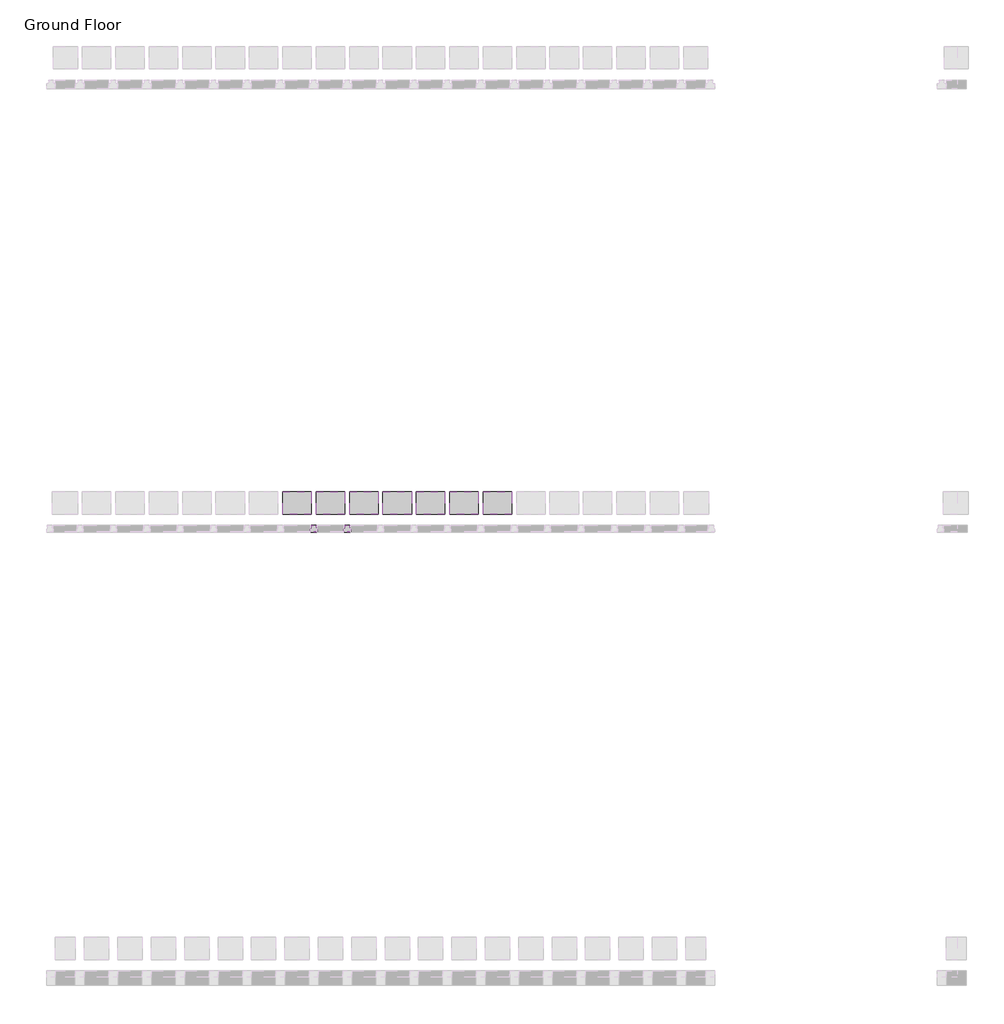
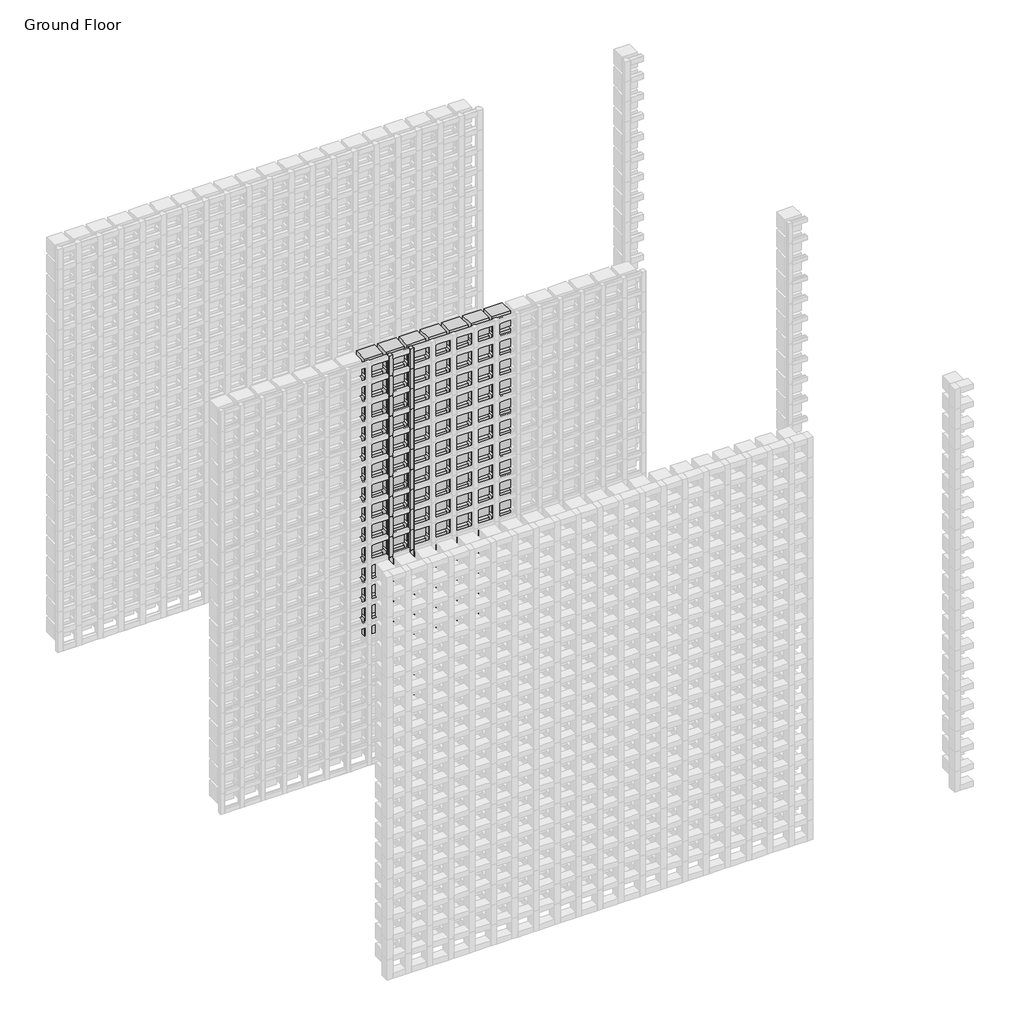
# One storey, part 89 of 350: 102 plates, 38 members.
"""IFC4 building model written with IfcOpenShell, lengths in millimetres."""

from ifc_helpers import new_model, si_unit, origin, place, context, project, spatial, transform, mapped, element, save
from components import rectangular_mullion_f1976eb1, empty_system_panel_empty_5a3607ba, empty_system_panel_empty_babc703c

model = new_model("IFC4")

# Units and contexts
model_context = context("Model", 3, world=origin())
ifc_project = project(units=[si_unit("LENGTHUNIT", "METRE", prefix="MILLI")], contexts=[model_context])

# Site, building, storey
site = spatial("IfcSite", under=ifc_project)
building = spatial("IfcBuilding", under=site)
storey = spatial("IfcBuildingStorey", under=building, Name="Ground Floor", Elevation=0.0)

# Members
placement = place(None, origin())
rectangular_mullion_shape = rectangular_mullion_f1976eb1(model_context)
element("IfcMember", 1, ObjectType="Rectangular Mullion : Batten_Timber_Modinex_Austratus_Grid_Fin_30x30_AlaskanYellowCedar", at=placement, inside=storey, context=model_context, shape_type="MappedRepresentation", body=[
    mapped(rectangular_mullion_shape, transform((3116.4361642, 42968.2978302, 150.0), x_axis=(1.0, 0.0, 0.0), y_axis=(0.0, -1.0, 0.0), z_axis=(0.0, 0.0, -1.0))),
])
element("IfcMember", 2, ObjectType="Rectangular Mullion : Batten_Timber_Modinex_Austratus_Grid_Fin_30x30_AlaskanYellowCedar", at=placement, inside=storey, context=model_context, shape_type="MappedRepresentation", body=[
    mapped(rectangular_mullion_shape, transform((3116.4361642, 42968.2978302, 300.0), x_axis=(1.0, 0.0, 0.0), y_axis=(0.0, -1.0, 0.0), z_axis=(0.0, 0.0, -1.0))),
])
element("IfcMember", 3, ObjectType="Rectangular Mullion : Batten_Timber_Modinex_Austratus_Grid_Fin_30x30_AlaskanYellowCedar", at=placement, inside=storey, context=model_context, shape_type="MappedRepresentation", body=[
    mapped(rectangular_mullion_shape, transform((3116.4361642, 42968.2978302, 450.0), x_axis=(1.0, 0.0, 0.0), y_axis=(0.0, -1.0, 0.0), z_axis=(0.0, 0.0, -1.0))),
])
element("IfcMember", 4, ObjectType="Rectangular Mullion : Batten_Timber_Modinex_Austratus_Grid_Fin_30x30_AlaskanYellowCedar", at=placement, inside=storey, context=model_context, shape_type="MappedRepresentation", body=[
    mapped(rectangular_mullion_shape, transform((3116.4361642, 42968.2978302, 600.0), x_axis=(1.0, 0.0, 0.0), y_axis=(0.0, -1.0, 0.0), z_axis=(0.0, 0.0, -1.0))),
])
element("IfcMember", 5, ObjectType="Rectangular Mullion : Batten_Timber_Modinex_Austratus_Grid_Fin_30x30_AlaskanYellowCedar", at=placement, inside=storey, context=model_context, shape_type="MappedRepresentation", body=[
    mapped(rectangular_mullion_shape, transform((3116.4361642, 42968.2978302, 750.0), x_axis=(1.0, 0.0, 0.0), y_axis=(0.0, -1.0, 0.0), z_axis=(0.0, 0.0, -1.0))),
])
element("IfcMember", 6, ObjectType="Rectangular Mullion : Batten_Timber_Modinex_Austratus_Grid_Fin_30x30_AlaskanYellowCedar", at=placement, inside=storey, context=model_context, shape_type="MappedRepresentation", body=[
    mapped(rectangular_mullion_shape, transform((3116.4361642, 42968.2978302, 900.0), x_axis=(1.0, 0.0, 0.0), y_axis=(0.0, -1.0, 0.0), z_axis=(0.0, 0.0, -1.0))),
])
element("IfcMember", 7, ObjectType="Rectangular Mullion : Batten_Timber_Modinex_Austratus_Grid_Fin_30x30_AlaskanYellowCedar", at=placement, inside=storey, context=model_context, shape_type="MappedRepresentation", body=[
    mapped(rectangular_mullion_shape, transform((3116.4361642, 42968.2978302, 1050.0), x_axis=(1.0, 0.0, 0.0), y_axis=(0.0, -1.0, 0.0), z_axis=(0.0, 0.0, -1.0))),
])
element("IfcMember", 8, ObjectType="Rectangular Mullion : Batten_Timber_Modinex_Austratus_Grid_Fin_30x30_AlaskanYellowCedar", at=placement, inside=storey, context=model_context, shape_type="MappedRepresentation", body=[
    mapped(rectangular_mullion_shape, transform((3116.4361642, 42968.2978302, 1200.0), x_axis=(1.0, 0.0, 0.0), y_axis=(0.0, -1.0, 0.0), z_axis=(0.0, 0.0, -1.0))),
])
element("IfcMember", 9, ObjectType="Rectangular Mullion : Batten_Timber_Modinex_Austratus_Grid_Fin_30x30_AlaskanYellowCedar", at=placement, inside=storey, context=model_context, shape_type="MappedRepresentation", body=[
    mapped(rectangular_mullion_shape, transform((3116.4361642, 42968.2978302, 1350.0), x_axis=(1.0, 0.0, 0.0), y_axis=(0.0, -1.0, 0.0), z_axis=(0.0, 0.0, -1.0))),
])
element("IfcMember", 10, ObjectType="Rectangular Mullion : Batten_Timber_Modinex_Austratus_Grid_Fin_30x30_AlaskanYellowCedar", at=placement, inside=storey, context=model_context, shape_type="MappedRepresentation", body=[
    mapped(rectangular_mullion_shape, transform((3116.4361642, 42968.2978302, 1500.0), x_axis=(1.0, 0.0, 0.0), y_axis=(0.0, -1.0, 0.0), z_axis=(0.0, 0.0, -1.0))),
])
element("IfcMember", 11, ObjectType="Rectangular Mullion : Batten_Timber_Modinex_Austratus_Grid_Fin_30x30_AlaskanYellowCedar", at=placement, inside=storey, context=model_context, shape_type="MappedRepresentation", body=[
    mapped(rectangular_mullion_shape, transform((3116.4361642, 42968.2978302, 1650.0), x_axis=(1.0, 0.0, 0.0), y_axis=(0.0, -1.0, 0.0), z_axis=(0.0, 0.0, -1.0))),
])
element("IfcMember", 12, ObjectType="Rectangular Mullion : Batten_Timber_Modinex_Austratus_Grid_Fin_30x30_AlaskanYellowCedar", at=placement, inside=storey, context=model_context, shape_type="MappedRepresentation", body=[
    mapped(rectangular_mullion_shape, transform((3116.4361642, 42968.2978302, 1800.0), x_axis=(1.0, 0.0, 0.0), y_axis=(0.0, -1.0, 0.0), z_axis=(0.0, 0.0, -1.0))),
])
element("IfcMember", 13, ObjectType="Rectangular Mullion : Batten_Timber_Modinex_Austratus_Grid_Fin_30x30_AlaskanYellowCedar", at=placement, inside=storey, context=model_context, shape_type="MappedRepresentation", body=[
    mapped(rectangular_mullion_shape, transform((3116.4361642, 42968.2978302, 1950.0), x_axis=(1.0, 0.0, 0.0), y_axis=(0.0, -1.0, 0.0), z_axis=(0.0, 0.0, -1.0))),
])
element("IfcMember", 14, ObjectType="Rectangular Mullion : Batten_Timber_Modinex_Austratus_Grid_Fin_30x30_AlaskanYellowCedar", at=placement, inside=storey, context=model_context, shape_type="MappedRepresentation", body=[
    mapped(rectangular_mullion_shape, transform((3116.4361642, 42968.2978302, 2100.0), x_axis=(1.0, 0.0, 0.0), y_axis=(0.0, -1.0, 0.0), z_axis=(0.0, 0.0, -1.0))),
])
element("IfcMember", 15, ObjectType="Rectangular Mullion : Batten_Timber_Modinex_Austratus_Grid_Fin_30x30_AlaskanYellowCedar", at=placement, inside=storey, context=model_context, shape_type="MappedRepresentation", body=[
    mapped(rectangular_mullion_shape, transform((3116.4361642, 42968.2978302, 2250.0), x_axis=(1.0, 0.0, 0.0), y_axis=(0.0, -1.0, 0.0), z_axis=(0.0, 0.0, -1.0))),
])
element("IfcMember", 16, ObjectType="Rectangular Mullion : Batten_Timber_Modinex_Austratus_Grid_Fin_30x30_AlaskanYellowCedar", at=placement, inside=storey, context=model_context, shape_type="MappedRepresentation", body=[
    mapped(rectangular_mullion_shape, transform((3116.4361642, 42968.2978302, 2400.0), x_axis=(1.0, 0.0, 0.0), y_axis=(0.0, -1.0, 0.0), z_axis=(0.0, 0.0, -1.0))),
])
element("IfcMember", 17, ObjectType="Rectangular Mullion : Batten_Timber_Modinex_Austratus_Grid_Fin_30x30_AlaskanYellowCedar", at=placement, inside=storey, context=model_context, shape_type="MappedRepresentation", body=[
    mapped(rectangular_mullion_shape, transform((3116.4361642, 42968.2978302, 2550.0), x_axis=(1.0, 0.0, 0.0), y_axis=(0.0, -1.0, 0.0), z_axis=(0.0, 0.0, -1.0))),
])
element("IfcMember", 18, ObjectType="Rectangular Mullion : Batten_Timber_Modinex_Austratus_Grid_Fin_30x30_AlaskanYellowCedar", at=placement, inside=storey, context=model_context, shape_type="MappedRepresentation", body=[
    mapped(rectangular_mullion_shape, transform((3116.4361642, 42968.2978302, 2700.0), x_axis=(1.0, 0.0, 0.0), y_axis=(0.0, -1.0, 0.0), z_axis=(0.0, 0.0, -1.0))),
])
element("IfcMember", 19, ObjectType="Rectangular Mullion : Batten_Timber_Modinex_Austratus_Grid_Fin_30x30_AlaskanYellowCedar", at=placement, inside=storey, context=model_context, shape_type="MappedRepresentation", body=[
    mapped(rectangular_mullion_shape, transform((3266.4361642, 42968.2978302, 150.0), x_axis=(1.0, 0.0, 0.0), y_axis=(0.0, -1.0, 0.0), z_axis=(0.0, 0.0, -1.0))),
])
element("IfcMember", 20, ObjectType="Rectangular Mullion : Batten_Timber_Modinex_Austratus_Grid_Fin_30x30_AlaskanYellowCedar", at=placement, inside=storey, context=model_context, shape_type="MappedRepresentation", body=[
    mapped(rectangular_mullion_shape, transform((3266.4361642, 42968.2978302, 300.0), x_axis=(1.0, 0.0, 0.0), y_axis=(0.0, -1.0, 0.0), z_axis=(0.0, 0.0, -1.0))),
])
element("IfcMember", 21, ObjectType="Rectangular Mullion : Batten_Timber_Modinex_Austratus_Grid_Fin_30x30_AlaskanYellowCedar", at=placement, inside=storey, context=model_context, shape_type="MappedRepresentation", body=[
    mapped(rectangular_mullion_shape, transform((3266.4361642, 42968.2978302, 450.0), x_axis=(1.0, 0.0, 0.0), y_axis=(0.0, -1.0, 0.0), z_axis=(0.0, 0.0, -1.0))),
])
element("IfcMember", 22, ObjectType="Rectangular Mullion : Batten_Timber_Modinex_Austratus_Grid_Fin_30x30_AlaskanYellowCedar", at=placement, inside=storey, context=model_context, shape_type="MappedRepresentation", body=[
    mapped(rectangular_mullion_shape, transform((3266.4361642, 42968.2978302, 600.0), x_axis=(1.0, 0.0, 0.0), y_axis=(0.0, -1.0, 0.0), z_axis=(0.0, 0.0, -1.0))),
])
element("IfcMember", 23, ObjectType="Rectangular Mullion : Batten_Timber_Modinex_Austratus_Grid_Fin_30x30_AlaskanYellowCedar", at=placement, inside=storey, context=model_context, shape_type="MappedRepresentation", body=[
    mapped(rectangular_mullion_shape, transform((3266.4361642, 42968.2978302, 750.0), x_axis=(1.0, 0.0, 0.0), y_axis=(0.0, -1.0, 0.0), z_axis=(0.0, 0.0, -1.0))),
])
element("IfcMember", 24, ObjectType="Rectangular Mullion : Batten_Timber_Modinex_Austratus_Grid_Fin_30x30_AlaskanYellowCedar", at=placement, inside=storey, context=model_context, shape_type="MappedRepresentation", body=[
    mapped(rectangular_mullion_shape, transform((3266.4361642, 42968.2978302, 900.0), x_axis=(1.0, 0.0, 0.0), y_axis=(0.0, -1.0, 0.0), z_axis=(0.0, 0.0, -1.0))),
])
element("IfcMember", 25, ObjectType="Rectangular Mullion : Batten_Timber_Modinex_Austratus_Grid_Fin_30x30_AlaskanYellowCedar", at=placement, inside=storey, context=model_context, shape_type="MappedRepresentation", body=[
    mapped(rectangular_mullion_shape, transform((3266.4361642, 42968.2978302, 1050.0), x_axis=(1.0, 0.0, 0.0), y_axis=(0.0, -1.0, 0.0), z_axis=(0.0, 0.0, -1.0))),
])
element("IfcMember", 26, ObjectType="Rectangular Mullion : Batten_Timber_Modinex_Austratus_Grid_Fin_30x30_AlaskanYellowCedar", at=placement, inside=storey, context=model_context, shape_type="MappedRepresentation", body=[
    mapped(rectangular_mullion_shape, transform((3266.4361642, 42968.2978302, 1200.0), x_axis=(1.0, 0.0, 0.0), y_axis=(0.0, -1.0, 0.0), z_axis=(0.0, 0.0, -1.0))),
])
element("IfcMember", 27, ObjectType="Rectangular Mullion : Batten_Timber_Modinex_Austratus_Grid_Fin_30x30_AlaskanYellowCedar", at=placement, inside=storey, context=model_context, shape_type="MappedRepresentation", body=[
    mapped(rectangular_mullion_shape, transform((3266.4361642, 42968.2978302, 1350.0), x_axis=(1.0, 0.0, 0.0), y_axis=(0.0, -1.0, 0.0), z_axis=(0.0, 0.0, -1.0))),
])
element("IfcMember", 28, ObjectType="Rectangular Mullion : Batten_Timber_Modinex_Austratus_Grid_Fin_30x30_AlaskanYellowCedar", at=placement, inside=storey, context=model_context, shape_type="MappedRepresentation", body=[
    mapped(rectangular_mullion_shape, transform((3266.4361642, 42968.2978302, 1500.0), x_axis=(1.0, 0.0, 0.0), y_axis=(0.0, -1.0, 0.0), z_axis=(0.0, 0.0, -1.0))),
])
element("IfcMember", 29, ObjectType="Rectangular Mullion : Batten_Timber_Modinex_Austratus_Grid_Fin_30x30_AlaskanYellowCedar", at=placement, inside=storey, context=model_context, shape_type="MappedRepresentation", body=[
    mapped(rectangular_mullion_shape, transform((3266.4361642, 42968.2978302, 1650.0), x_axis=(1.0, 0.0, 0.0), y_axis=(0.0, -1.0, 0.0), z_axis=(0.0, 0.0, -1.0))),
])
element("IfcMember", 30, ObjectType="Rectangular Mullion : Batten_Timber_Modinex_Austratus_Grid_Fin_30x30_AlaskanYellowCedar", at=placement, inside=storey, context=model_context, shape_type="MappedRepresentation", body=[
    mapped(rectangular_mullion_shape, transform((3266.4361642, 42968.2978302, 1800.0), x_axis=(1.0, 0.0, 0.0), y_axis=(0.0, -1.0, 0.0), z_axis=(0.0, 0.0, -1.0))),
])
element("IfcMember", 31, ObjectType="Rectangular Mullion : Batten_Timber_Modinex_Austratus_Grid_Fin_30x30_AlaskanYellowCedar", at=placement, inside=storey, context=model_context, shape_type="MappedRepresentation", body=[
    mapped(rectangular_mullion_shape, transform((3266.4361642, 42968.2978302, 1950.0), x_axis=(1.0, 0.0, 0.0), y_axis=(0.0, -1.0, 0.0), z_axis=(0.0, 0.0, -1.0))),
])
element("IfcMember", 32, ObjectType="Rectangular Mullion : Batten_Timber_Modinex_Austratus_Grid_Fin_30x30_AlaskanYellowCedar", at=placement, inside=storey, context=model_context, shape_type="MappedRepresentation", body=[
    mapped(rectangular_mullion_shape, transform((3266.4361642, 42968.2978302, 2100.0), x_axis=(1.0, 0.0, 0.0), y_axis=(0.0, -1.0, 0.0), z_axis=(0.0, 0.0, -1.0))),
])
element("IfcMember", 33, ObjectType="Rectangular Mullion : Batten_Timber_Modinex_Austratus_Grid_Fin_30x30_AlaskanYellowCedar", at=placement, inside=storey, context=model_context, shape_type="MappedRepresentation", body=[
    mapped(rectangular_mullion_shape, transform((3266.4361642, 42968.2978302, 2250.0), x_axis=(1.0, 0.0, 0.0), y_axis=(0.0, -1.0, 0.0), z_axis=(0.0, 0.0, -1.0))),
])
element("IfcMember", 34, ObjectType="Rectangular Mullion : Batten_Timber_Modinex_Austratus_Grid_Fin_30x30_AlaskanYellowCedar", at=placement, inside=storey, context=model_context, shape_type="MappedRepresentation", body=[
    mapped(rectangular_mullion_shape, transform((3266.4361642, 42968.2978302, 2400.0), x_axis=(1.0, 0.0, 0.0), y_axis=(0.0, -1.0, 0.0), z_axis=(0.0, 0.0, -1.0))),
])
element("IfcMember", 35, ObjectType="Rectangular Mullion : Batten_Timber_Modinex_Austratus_Grid_Fin_30x30_AlaskanYellowCedar", at=placement, inside=storey, context=model_context, shape_type="MappedRepresentation", body=[
    mapped(rectangular_mullion_shape, transform((3266.4361642, 42968.2978302, 2550.0), x_axis=(1.0, 0.0, 0.0), y_axis=(0.0, -1.0, 0.0), z_axis=(0.0, 0.0, -1.0))),
])
element("IfcMember", 36, ObjectType="Rectangular Mullion : Batten_Timber_Modinex_Austratus_Grid_Fin_30x30_AlaskanYellowCedar", at=placement, inside=storey, context=model_context, shape_type="MappedRepresentation", body=[
    mapped(rectangular_mullion_shape, transform((3266.4361642, 42968.2978302, 2700.0), x_axis=(1.0, 0.0, 0.0), y_axis=(0.0, -1.0, 0.0), z_axis=(0.0, 0.0, -1.0))),
])
element("IfcMember", 37, ObjectType="Rectangular Mullion : Batten_Timber_Modinex_Austratus_Grid_Fin_30x30_AlaskanYellowCedar", at=placement, inside=storey, context=model_context, shape_type="MappedRepresentation", body=[
    mapped(rectangular_mullion_shape, transform((3116.4361642, 42968.2978302, 2850.0), x_axis=(1.0, 0.0, 0.0), y_axis=(0.0, -1.0, 0.0), z_axis=(0.0, 0.0, -1.0))),
])
element("IfcMember", 38, ObjectType="Rectangular Mullion : Batten_Timber_Modinex_Austratus_Grid_Fin_30x30_AlaskanYellowCedar", at=placement, inside=storey, context=model_context, shape_type="MappedRepresentation", body=[
    mapped(rectangular_mullion_shape, transform((3266.4361642, 42968.2978302, 2850.0), x_axis=(1.0, 0.0, 0.0), y_axis=(0.0, -1.0, 0.0), z_axis=(0.0, 0.0, -1.0))),
])

# Plates
empty_system_panel_empty_shape = empty_system_panel_empty_5a3607ba(model_context)
element("IfcPlate", 39, ObjectType="Empty System Panel : Empty", at=placement, inside=storey, context=model_context, shape_type="MappedRepresentation", body=[
    mapped(empty_system_panel_empty_shape, transform((3491.4361642, 42968.2978302, 760.812195), x_axis=(1.0, 0.0, 0.0), y_axis=(0.0, 1.0, 0.0), z_axis=(0.0, 0.0, 1.0))),
])
element("IfcPlate", 40, ObjectType="Empty System Panel : Empty", at=placement, inside=storey, context=model_context, shape_type="MappedRepresentation", body=[
    mapped(empty_system_panel_empty_shape, transform((3641.4361642, 42968.2978302, 760.812195), x_axis=(1.0, 0.0, 0.0), y_axis=(0.0, 1.0, 0.0), z_axis=(0.0, 0.0, 1.0))),
])
element("IfcPlate", 41, ObjectType="Empty System Panel : Empty", at=placement, inside=storey, context=model_context, shape_type="MappedRepresentation", body=[
    mapped(empty_system_panel_empty_shape, transform((3791.4361642, 42968.2978302, 760.812195), x_axis=(1.0, 0.0, 0.0), y_axis=(0.0, 1.0, 0.0), z_axis=(0.0, 0.0, 1.0))),
])
element("IfcPlate", 42, ObjectType="Empty System Panel : Empty", at=placement, inside=storey, context=model_context, shape_type="MappedRepresentation", body=[
    mapped(empty_system_panel_empty_shape, transform((3941.4361642, 42968.2978302, 760.812195), x_axis=(1.0, 0.0, 0.0), y_axis=(0.0, 1.0, 0.0), z_axis=(0.0, 0.0, 1.0))),
])
element("IfcPlate", 43, ObjectType="Empty System Panel : Empty", at=placement, inside=storey, context=model_context, shape_type="MappedRepresentation", body=[
    mapped(empty_system_panel_empty_shape, transform((3041.4361642, 42968.2978302, 910.812195), x_axis=(1.0, 0.0, 0.0), y_axis=(0.0, 1.0, 0.0), z_axis=(0.0, 0.0, 1.0))),
])
element("IfcPlate", 44, ObjectType="Empty System Panel : Empty", at=placement, inside=storey, context=model_context, shape_type="MappedRepresentation", body=[
    mapped(empty_system_panel_empty_shape, transform((3191.4361642, 42968.2978302, 910.812195), x_axis=(1.0, 0.0, 0.0), y_axis=(0.0, 1.0, 0.0), z_axis=(0.0, 0.0, 1.0))),
])
element("IfcPlate", 45, ObjectType="Empty System Panel : Empty", at=placement, inside=storey, context=model_context, shape_type="MappedRepresentation", body=[
    mapped(empty_system_panel_empty_shape, transform((3341.4361642, 42968.2978302, 910.812195), x_axis=(1.0, 0.0, 0.0), y_axis=(0.0, 1.0, 0.0), z_axis=(0.0, 0.0, 1.0))),
])
element("IfcPlate", 46, ObjectType="Empty System Panel : Empty", at=placement, inside=storey, context=model_context, shape_type="MappedRepresentation", body=[
    mapped(empty_system_panel_empty_shape, transform((3491.4361642, 42968.2978302, 910.812195), x_axis=(1.0, 0.0, 0.0), y_axis=(0.0, 1.0, 0.0), z_axis=(0.0, 0.0, 1.0))),
])
element("IfcPlate", 47, ObjectType="Empty System Panel : Empty", at=placement, inside=storey, context=model_context, shape_type="MappedRepresentation", body=[
    mapped(empty_system_panel_empty_shape, transform((3641.4361642, 42968.2978302, 910.812195), x_axis=(1.0, 0.0, 0.0), y_axis=(0.0, 1.0, 0.0), z_axis=(0.0, 0.0, 1.0))),
])
element("IfcPlate", 48, ObjectType="Empty System Panel : Empty", at=placement, inside=storey, context=model_context, shape_type="MappedRepresentation", body=[
    mapped(empty_system_panel_empty_shape, transform((3791.4361642, 42968.2978302, 910.812195), x_axis=(1.0, 0.0, 0.0), y_axis=(0.0, 1.0, 0.0), z_axis=(0.0, 0.0, 1.0))),
])
element("IfcPlate", 49, ObjectType="Empty System Panel : Empty", at=placement, inside=storey, context=model_context, shape_type="MappedRepresentation", body=[
    mapped(empty_system_panel_empty_shape, transform((3941.4361642, 42968.2978302, 910.812195), x_axis=(1.0, 0.0, 0.0), y_axis=(0.0, 1.0, 0.0), z_axis=(0.0, 0.0, 1.0))),
])
element("IfcPlate", 50, ObjectType="Empty System Panel : Empty", at=placement, inside=storey, context=model_context, shape_type="MappedRepresentation", body=[
    mapped(empty_system_panel_empty_shape, transform((3041.4361642, 42968.2978302, 1060.812195), x_axis=(1.0, 0.0, 0.0), y_axis=(0.0, 1.0, 0.0), z_axis=(0.0, 0.0, 1.0))),
])
element("IfcPlate", 51, ObjectType="Empty System Panel : Empty", at=placement, inside=storey, context=model_context, shape_type="MappedRepresentation", body=[
    mapped(empty_system_panel_empty_shape, transform((3191.4361642, 42968.2978302, 1060.812195), x_axis=(1.0, 0.0, 0.0), y_axis=(0.0, 1.0, 0.0), z_axis=(0.0, 0.0, 1.0))),
])
element("IfcPlate", 52, ObjectType="Empty System Panel : Empty", at=placement, inside=storey, context=model_context, shape_type="MappedRepresentation", body=[
    mapped(empty_system_panel_empty_shape, transform((3341.4361642, 42968.2978302, 1060.812195), x_axis=(1.0, 0.0, 0.0), y_axis=(0.0, 1.0, 0.0), z_axis=(0.0, 0.0, 1.0))),
])
element("IfcPlate", 53, ObjectType="Empty System Panel : Empty", at=placement, inside=storey, context=model_context, shape_type="MappedRepresentation", body=[
    mapped(empty_system_panel_empty_shape, transform((3491.4361642, 42968.2978302, 1060.812195), x_axis=(1.0, 0.0, 0.0), y_axis=(0.0, 1.0, 0.0), z_axis=(0.0, 0.0, 1.0))),
])
element("IfcPlate", 54, ObjectType="Empty System Panel : Empty", at=placement, inside=storey, context=model_context, shape_type="MappedRepresentation", body=[
    mapped(empty_system_panel_empty_shape, transform((3641.4361642, 42968.2978302, 1060.812195), x_axis=(1.0, 0.0, 0.0), y_axis=(0.0, 1.0, 0.0), z_axis=(0.0, 0.0, 1.0))),
])
element("IfcPlate", 55, ObjectType="Empty System Panel : Empty", at=placement, inside=storey, context=model_context, shape_type="MappedRepresentation", body=[
    mapped(empty_system_panel_empty_shape, transform((3791.4361642, 42968.2978302, 1060.812195), x_axis=(1.0, 0.0, 0.0), y_axis=(0.0, 1.0, 0.0), z_axis=(0.0, 0.0, 1.0))),
])
element("IfcPlate", 56, ObjectType="Empty System Panel : Empty", at=placement, inside=storey, context=model_context, shape_type="MappedRepresentation", body=[
    mapped(empty_system_panel_empty_shape, transform((3941.4361642, 42968.2978302, 1060.812195), x_axis=(1.0, 0.0, 0.0), y_axis=(0.0, 1.0, 0.0), z_axis=(0.0, 0.0, 1.0))),
])
element("IfcPlate", 57, ObjectType="Empty System Panel : Empty", at=placement, inside=storey, context=model_context, shape_type="MappedRepresentation", body=[
    mapped(empty_system_panel_empty_shape, transform((3041.4361642, 42968.2978302, 1210.812195), x_axis=(1.0, 0.0, 0.0), y_axis=(0.0, 1.0, 0.0), z_axis=(0.0, 0.0, 1.0))),
])
element("IfcPlate", 58, ObjectType="Empty System Panel : Empty", at=placement, inside=storey, context=model_context, shape_type="MappedRepresentation", body=[
    mapped(empty_system_panel_empty_shape, transform((3191.4361642, 42968.2978302, 1210.812195), x_axis=(1.0, 0.0, 0.0), y_axis=(0.0, 1.0, 0.0), z_axis=(0.0, 0.0, 1.0))),
])
element("IfcPlate", 59, ObjectType="Empty System Panel : Empty", at=placement, inside=storey, context=model_context, shape_type="MappedRepresentation", body=[
    mapped(empty_system_panel_empty_shape, transform((3341.4361642, 42968.2978302, 1210.812195), x_axis=(1.0, 0.0, 0.0), y_axis=(0.0, 1.0, 0.0), z_axis=(0.0, 0.0, 1.0))),
])
element("IfcPlate", 60, ObjectType="Empty System Panel : Empty", at=placement, inside=storey, context=model_context, shape_type="MappedRepresentation", body=[
    mapped(empty_system_panel_empty_shape, transform((3491.4361642, 42968.2978302, 1210.812195), x_axis=(1.0, 0.0, 0.0), y_axis=(0.0, 1.0, 0.0), z_axis=(0.0, 0.0, 1.0))),
])
element("IfcPlate", 61, ObjectType="Empty System Panel : Empty", at=placement, inside=storey, context=model_context, shape_type="MappedRepresentation", body=[
    mapped(empty_system_panel_empty_shape, transform((3641.4361642, 42968.2978302, 1210.812195), x_axis=(1.0, 0.0, 0.0), y_axis=(0.0, 1.0, 0.0), z_axis=(0.0, 0.0, 1.0))),
])
element("IfcPlate", 62, ObjectType="Empty System Panel : Empty", at=placement, inside=storey, context=model_context, shape_type="MappedRepresentation", body=[
    mapped(empty_system_panel_empty_shape, transform((3791.4361642, 42968.2978302, 1210.812195), x_axis=(1.0, 0.0, 0.0), y_axis=(0.0, 1.0, 0.0), z_axis=(0.0, 0.0, 1.0))),
])
element("IfcPlate", 63, ObjectType="Empty System Panel : Empty", at=placement, inside=storey, context=model_context, shape_type="MappedRepresentation", body=[
    mapped(empty_system_panel_empty_shape, transform((3941.4361642, 42968.2978302, 1210.812195), x_axis=(1.0, 0.0, 0.0), y_axis=(0.0, 1.0, 0.0), z_axis=(0.0, 0.0, 1.0))),
])
element("IfcPlate", 64, ObjectType="Empty System Panel : Empty", at=placement, inside=storey, context=model_context, shape_type="MappedRepresentation", body=[
    mapped(empty_system_panel_empty_shape, transform((3041.4361642, 42968.2978302, 1360.812195), x_axis=(1.0, 0.0, 0.0), y_axis=(0.0, 1.0, 0.0), z_axis=(0.0, 0.0, 1.0))),
])
element("IfcPlate", 65, ObjectType="Empty System Panel : Empty", at=placement, inside=storey, context=model_context, shape_type="MappedRepresentation", body=[
    mapped(empty_system_panel_empty_shape, transform((3191.4361642, 42968.2978302, 1360.812195), x_axis=(1.0, 0.0, 0.0), y_axis=(0.0, 1.0, 0.0), z_axis=(0.0, 0.0, 1.0))),
])
element("IfcPlate", 66, ObjectType="Empty System Panel : Empty", at=placement, inside=storey, context=model_context, shape_type="MappedRepresentation", body=[
    mapped(empty_system_panel_empty_shape, transform((3341.4361642, 42968.2978302, 1360.812195), x_axis=(1.0, 0.0, 0.0), y_axis=(0.0, 1.0, 0.0), z_axis=(0.0, 0.0, 1.0))),
])
element("IfcPlate", 67, ObjectType="Empty System Panel : Empty", at=placement, inside=storey, context=model_context, shape_type="MappedRepresentation", body=[
    mapped(empty_system_panel_empty_shape, transform((3491.4361642, 42968.2978302, 1360.812195), x_axis=(1.0, 0.0, 0.0), y_axis=(0.0, 1.0, 0.0), z_axis=(0.0, 0.0, 1.0))),
])
element("IfcPlate", 68, ObjectType="Empty System Panel : Empty", at=placement, inside=storey, context=model_context, shape_type="MappedRepresentation", body=[
    mapped(empty_system_panel_empty_shape, transform((3641.4361642, 42968.2978302, 1360.812195), x_axis=(1.0, 0.0, 0.0), y_axis=(0.0, 1.0, 0.0), z_axis=(0.0, 0.0, 1.0))),
])
element("IfcPlate", 69, ObjectType="Empty System Panel : Empty", at=placement, inside=storey, context=model_context, shape_type="MappedRepresentation", body=[
    mapped(empty_system_panel_empty_shape, transform((3791.4361642, 42968.2978302, 1360.812195), x_axis=(1.0, 0.0, 0.0), y_axis=(0.0, 1.0, 0.0), z_axis=(0.0, 0.0, 1.0))),
])
element("IfcPlate", 70, ObjectType="Empty System Panel : Empty", at=placement, inside=storey, context=model_context, shape_type="MappedRepresentation", body=[
    mapped(empty_system_panel_empty_shape, transform((3941.4361642, 42968.2978302, 1360.812195), x_axis=(1.0, 0.0, 0.0), y_axis=(0.0, 1.0, 0.0), z_axis=(0.0, 0.0, 1.0))),
])
element("IfcPlate", 71, ObjectType="Empty System Panel : Empty", at=placement, inside=storey, context=model_context, shape_type="MappedRepresentation", body=[
    mapped(empty_system_panel_empty_shape, transform((3041.4361642, 42968.2978302, 1510.812195), x_axis=(1.0, 0.0, 0.0), y_axis=(0.0, 1.0, 0.0), z_axis=(0.0, 0.0, 1.0))),
])
element("IfcPlate", 72, ObjectType="Empty System Panel : Empty", at=placement, inside=storey, context=model_context, shape_type="MappedRepresentation", body=[
    mapped(empty_system_panel_empty_shape, transform((3191.4361642, 42968.2978302, 1510.812195), x_axis=(1.0, 0.0, 0.0), y_axis=(0.0, 1.0, 0.0), z_axis=(0.0, 0.0, 1.0))),
])
element("IfcPlate", 73, ObjectType="Empty System Panel : Empty", at=placement, inside=storey, context=model_context, shape_type="MappedRepresentation", body=[
    mapped(empty_system_panel_empty_shape, transform((3341.4361642, 42968.2978302, 1510.812195), x_axis=(1.0, 0.0, 0.0), y_axis=(0.0, 1.0, 0.0), z_axis=(0.0, 0.0, 1.0))),
])
element("IfcPlate", 74, ObjectType="Empty System Panel : Empty", at=placement, inside=storey, context=model_context, shape_type="MappedRepresentation", body=[
    mapped(empty_system_panel_empty_shape, transform((3491.4361642, 42968.2978302, 1510.812195), x_axis=(1.0, 0.0, 0.0), y_axis=(0.0, 1.0, 0.0), z_axis=(0.0, 0.0, 1.0))),
])
element("IfcPlate", 75, ObjectType="Empty System Panel : Empty", at=placement, inside=storey, context=model_context, shape_type="MappedRepresentation", body=[
    mapped(empty_system_panel_empty_shape, transform((3641.4361642, 42968.2978302, 1510.812195), x_axis=(1.0, 0.0, 0.0), y_axis=(0.0, 1.0, 0.0), z_axis=(0.0, 0.0, 1.0))),
])
element("IfcPlate", 76, ObjectType="Empty System Panel : Empty", at=placement, inside=storey, context=model_context, shape_type="MappedRepresentation", body=[
    mapped(empty_system_panel_empty_shape, transform((3791.4361642, 42968.2978302, 1510.812195), x_axis=(1.0, 0.0, 0.0), y_axis=(0.0, 1.0, 0.0), z_axis=(0.0, 0.0, 1.0))),
])
element("IfcPlate", 77, ObjectType="Empty System Panel : Empty", at=placement, inside=storey, context=model_context, shape_type="MappedRepresentation", body=[
    mapped(empty_system_panel_empty_shape, transform((3941.4361642, 42968.2978302, 1510.812195), x_axis=(1.0, 0.0, 0.0), y_axis=(0.0, 1.0, 0.0), z_axis=(0.0, 0.0, 1.0))),
])
element("IfcPlate", 78, ObjectType="Empty System Panel : Empty", at=placement, inside=storey, context=model_context, shape_type="MappedRepresentation", body=[
    mapped(empty_system_panel_empty_shape, transform((3041.4361642, 42968.2978302, 1660.812195), x_axis=(1.0, 0.0, 0.0), y_axis=(0.0, 1.0, 0.0), z_axis=(0.0, 0.0, 1.0))),
])
element("IfcPlate", 79, ObjectType="Empty System Panel : Empty", at=placement, inside=storey, context=model_context, shape_type="MappedRepresentation", body=[
    mapped(empty_system_panel_empty_shape, transform((3191.4361642, 42968.2978302, 1660.812195), x_axis=(1.0, 0.0, 0.0), y_axis=(0.0, 1.0, 0.0), z_axis=(0.0, 0.0, 1.0))),
])
element("IfcPlate", 80, ObjectType="Empty System Panel : Empty", at=placement, inside=storey, context=model_context, shape_type="MappedRepresentation", body=[
    mapped(empty_system_panel_empty_shape, transform((3341.4361642, 42968.2978302, 1660.812195), x_axis=(1.0, 0.0, 0.0), y_axis=(0.0, 1.0, 0.0), z_axis=(0.0, 0.0, 1.0))),
])
element("IfcPlate", 81, ObjectType="Empty System Panel : Empty", at=placement, inside=storey, context=model_context, shape_type="MappedRepresentation", body=[
    mapped(empty_system_panel_empty_shape, transform((3491.4361642, 42968.2978302, 1660.812195), x_axis=(1.0, 0.0, 0.0), y_axis=(0.0, 1.0, 0.0), z_axis=(0.0, 0.0, 1.0))),
])
element("IfcPlate", 82, ObjectType="Empty System Panel : Empty", at=placement, inside=storey, context=model_context, shape_type="MappedRepresentation", body=[
    mapped(empty_system_panel_empty_shape, transform((3641.4361642, 42968.2978302, 1660.812195), x_axis=(1.0, 0.0, 0.0), y_axis=(0.0, 1.0, 0.0), z_axis=(0.0, 0.0, 1.0))),
])
element("IfcPlate", 83, ObjectType="Empty System Panel : Empty", at=placement, inside=storey, context=model_context, shape_type="MappedRepresentation", body=[
    mapped(empty_system_panel_empty_shape, transform((3791.4361642, 42968.2978302, 1660.812195), x_axis=(1.0, 0.0, 0.0), y_axis=(0.0, 1.0, 0.0), z_axis=(0.0, 0.0, 1.0))),
])
element("IfcPlate", 84, ObjectType="Empty System Panel : Empty", at=placement, inside=storey, context=model_context, shape_type="MappedRepresentation", body=[
    mapped(empty_system_panel_empty_shape, transform((3941.4361642, 42968.2978302, 1660.812195), x_axis=(1.0, 0.0, 0.0), y_axis=(0.0, 1.0, 0.0), z_axis=(0.0, 0.0, 1.0))),
])
element("IfcPlate", 85, ObjectType="Empty System Panel : Empty", at=placement, inside=storey, context=model_context, shape_type="MappedRepresentation", body=[
    mapped(empty_system_panel_empty_shape, transform((3041.4361642, 42968.2978302, 1810.812195), x_axis=(1.0, 0.0, 0.0), y_axis=(0.0, 1.0, 0.0), z_axis=(0.0, 0.0, 1.0))),
])
element("IfcPlate", 86, ObjectType="Empty System Panel : Empty", at=placement, inside=storey, context=model_context, shape_type="MappedRepresentation", body=[
    mapped(empty_system_panel_empty_shape, transform((3191.4361642, 42968.2978302, 1810.812195), x_axis=(1.0, 0.0, 0.0), y_axis=(0.0, 1.0, 0.0), z_axis=(0.0, 0.0, 1.0))),
])
element("IfcPlate", 87, ObjectType="Empty System Panel : Empty", at=placement, inside=storey, context=model_context, shape_type="MappedRepresentation", body=[
    mapped(empty_system_panel_empty_shape, transform((3341.4361642, 42968.2978302, 1810.812195), x_axis=(1.0, 0.0, 0.0), y_axis=(0.0, 1.0, 0.0), z_axis=(0.0, 0.0, 1.0))),
])
element("IfcPlate", 88, ObjectType="Empty System Panel : Empty", at=placement, inside=storey, context=model_context, shape_type="MappedRepresentation", body=[
    mapped(empty_system_panel_empty_shape, transform((3491.4361642, 42968.2978302, 1810.812195), x_axis=(1.0, 0.0, 0.0), y_axis=(0.0, 1.0, 0.0), z_axis=(0.0, 0.0, 1.0))),
])
element("IfcPlate", 89, ObjectType="Empty System Panel : Empty", at=placement, inside=storey, context=model_context, shape_type="MappedRepresentation", body=[
    mapped(empty_system_panel_empty_shape, transform((3641.4361642, 42968.2978302, 1810.812195), x_axis=(1.0, 0.0, 0.0), y_axis=(0.0, 1.0, 0.0), z_axis=(0.0, 0.0, 1.0))),
])
element("IfcPlate", 90, ObjectType="Empty System Panel : Empty", at=placement, inside=storey, context=model_context, shape_type="MappedRepresentation", body=[
    mapped(empty_system_panel_empty_shape, transform((3791.4361642, 42968.2978302, 1810.812195), x_axis=(1.0, 0.0, 0.0), y_axis=(0.0, 1.0, 0.0), z_axis=(0.0, 0.0, 1.0))),
])
element("IfcPlate", 91, ObjectType="Empty System Panel : Empty", at=placement, inside=storey, context=model_context, shape_type="MappedRepresentation", body=[
    mapped(empty_system_panel_empty_shape, transform((3941.4361642, 42968.2978302, 1810.812195), x_axis=(1.0, 0.0, 0.0), y_axis=(0.0, 1.0, 0.0), z_axis=(0.0, 0.0, 1.0))),
])
element("IfcPlate", 92, ObjectType="Empty System Panel : Empty", at=placement, inside=storey, context=model_context, shape_type="MappedRepresentation", body=[
    mapped(empty_system_panel_empty_shape, transform((3041.4361642, 42968.2978302, 1960.812195), x_axis=(1.0, 0.0, 0.0), y_axis=(0.0, 1.0, 0.0), z_axis=(0.0, 0.0, 1.0))),
])
element("IfcPlate", 93, ObjectType="Empty System Panel : Empty", at=placement, inside=storey, context=model_context, shape_type="MappedRepresentation", body=[
    mapped(empty_system_panel_empty_shape, transform((3191.4361642, 42968.2978302, 1960.812195), x_axis=(1.0, 0.0, 0.0), y_axis=(0.0, 1.0, 0.0), z_axis=(0.0, 0.0, 1.0))),
])
element("IfcPlate", 94, ObjectType="Empty System Panel : Empty", at=placement, inside=storey, context=model_context, shape_type="MappedRepresentation", body=[
    mapped(empty_system_panel_empty_shape, transform((3341.4361642, 42968.2978302, 1960.812195), x_axis=(1.0, 0.0, 0.0), y_axis=(0.0, 1.0, 0.0), z_axis=(0.0, 0.0, 1.0))),
])
element("IfcPlate", 95, ObjectType="Empty System Panel : Empty", at=placement, inside=storey, context=model_context, shape_type="MappedRepresentation", body=[
    mapped(empty_system_panel_empty_shape, transform((3491.4361642, 42968.2978302, 1960.812195), x_axis=(1.0, 0.0, 0.0), y_axis=(0.0, 1.0, 0.0), z_axis=(0.0, 0.0, 1.0))),
])
element("IfcPlate", 96, ObjectType="Empty System Panel : Empty", at=placement, inside=storey, context=model_context, shape_type="MappedRepresentation", body=[
    mapped(empty_system_panel_empty_shape, transform((3641.4361642, 42968.2978302, 1960.812195), x_axis=(1.0, 0.0, 0.0), y_axis=(0.0, 1.0, 0.0), z_axis=(0.0, 0.0, 1.0))),
])
element("IfcPlate", 97, ObjectType="Empty System Panel : Empty", at=placement, inside=storey, context=model_context, shape_type="MappedRepresentation", body=[
    mapped(empty_system_panel_empty_shape, transform((3791.4361642, 42968.2978302, 1960.812195), x_axis=(1.0, 0.0, 0.0), y_axis=(0.0, 1.0, 0.0), z_axis=(0.0, 0.0, 1.0))),
])
element("IfcPlate", 98, ObjectType="Empty System Panel : Empty", at=placement, inside=storey, context=model_context, shape_type="MappedRepresentation", body=[
    mapped(empty_system_panel_empty_shape, transform((3941.4361642, 42968.2978302, 1960.812195), x_axis=(1.0, 0.0, 0.0), y_axis=(0.0, 1.0, 0.0), z_axis=(0.0, 0.0, 1.0))),
])
element("IfcPlate", 99, ObjectType="Empty System Panel : Empty", at=placement, inside=storey, context=model_context, shape_type="MappedRepresentation", body=[
    mapped(empty_system_panel_empty_shape, transform((3041.4361642, 42968.2978302, 2110.812195), x_axis=(1.0, 0.0, 0.0), y_axis=(0.0, 1.0, 0.0), z_axis=(0.0, 0.0, 1.0))),
])
element("IfcPlate", 100, ObjectType="Empty System Panel : Empty", at=placement, inside=storey, context=model_context, shape_type="MappedRepresentation", body=[
    mapped(empty_system_panel_empty_shape, transform((3191.4361642, 42968.2978302, 2110.812195), x_axis=(1.0, 0.0, 0.0), y_axis=(0.0, 1.0, 0.0), z_axis=(0.0, 0.0, 1.0))),
])
element("IfcPlate", 101, ObjectType="Empty System Panel : Empty", at=placement, inside=storey, context=model_context, shape_type="MappedRepresentation", body=[
    mapped(empty_system_panel_empty_shape, transform((3341.4361642, 42968.2978302, 2110.812195), x_axis=(1.0, 0.0, 0.0), y_axis=(0.0, 1.0, 0.0), z_axis=(0.0, 0.0, 1.0))),
])
element("IfcPlate", 102, ObjectType="Empty System Panel : Empty", at=placement, inside=storey, context=model_context, shape_type="MappedRepresentation", body=[
    mapped(empty_system_panel_empty_shape, transform((3491.4361642, 42968.2978302, 2110.812195), x_axis=(1.0, 0.0, 0.0), y_axis=(0.0, 1.0, 0.0), z_axis=(0.0, 0.0, 1.0))),
])
element("IfcPlate", 103, ObjectType="Empty System Panel : Empty", at=placement, inside=storey, context=model_context, shape_type="MappedRepresentation", body=[
    mapped(empty_system_panel_empty_shape, transform((3641.4361642, 42968.2978302, 2110.812195), x_axis=(1.0, 0.0, 0.0), y_axis=(0.0, 1.0, 0.0), z_axis=(0.0, 0.0, 1.0))),
])
element("IfcPlate", 104, ObjectType="Empty System Panel : Empty", at=placement, inside=storey, context=model_context, shape_type="MappedRepresentation", body=[
    mapped(empty_system_panel_empty_shape, transform((3791.4361642, 42968.2978302, 2110.812195), x_axis=(1.0, 0.0, 0.0), y_axis=(0.0, 1.0, 0.0), z_axis=(0.0, 0.0, 1.0))),
])
element("IfcPlate", 105, ObjectType="Empty System Panel : Empty", at=placement, inside=storey, context=model_context, shape_type="MappedRepresentation", body=[
    mapped(empty_system_panel_empty_shape, transform((3941.4361642, 42968.2978302, 2110.812195), x_axis=(1.0, 0.0, 0.0), y_axis=(0.0, 1.0, 0.0), z_axis=(0.0, 0.0, 1.0))),
])
element("IfcPlate", 106, ObjectType="Empty System Panel : Empty", at=placement, inside=storey, context=model_context, shape_type="MappedRepresentation", body=[
    mapped(empty_system_panel_empty_shape, transform((3041.4361642, 42968.2978302, 2260.812195), x_axis=(1.0, 0.0, 0.0), y_axis=(0.0, 1.0, 0.0), z_axis=(0.0, 0.0, 1.0))),
])
element("IfcPlate", 107, ObjectType="Empty System Panel : Empty", at=placement, inside=storey, context=model_context, shape_type="MappedRepresentation", body=[
    mapped(empty_system_panel_empty_shape, transform((3191.4361642, 42968.2978302, 2260.812195), x_axis=(1.0, 0.0, 0.0), y_axis=(0.0, 1.0, 0.0), z_axis=(0.0, 0.0, 1.0))),
])
element("IfcPlate", 108, ObjectType="Empty System Panel : Empty", at=placement, inside=storey, context=model_context, shape_type="MappedRepresentation", body=[
    mapped(empty_system_panel_empty_shape, transform((3341.4361642, 42968.2978302, 2260.812195), x_axis=(1.0, 0.0, 0.0), y_axis=(0.0, 1.0, 0.0), z_axis=(0.0, 0.0, 1.0))),
])
element("IfcPlate", 109, ObjectType="Empty System Panel : Empty", at=placement, inside=storey, context=model_context, shape_type="MappedRepresentation", body=[
    mapped(empty_system_panel_empty_shape, transform((3491.4361642, 42968.2978302, 2260.812195), x_axis=(1.0, 0.0, 0.0), y_axis=(0.0, 1.0, 0.0), z_axis=(0.0, 0.0, 1.0))),
])
element("IfcPlate", 110, ObjectType="Empty System Panel : Empty", at=placement, inside=storey, context=model_context, shape_type="MappedRepresentation", body=[
    mapped(empty_system_panel_empty_shape, transform((3641.4361642, 42968.2978302, 2260.812195), x_axis=(1.0, 0.0, 0.0), y_axis=(0.0, 1.0, 0.0), z_axis=(0.0, 0.0, 1.0))),
])
element("IfcPlate", 111, ObjectType="Empty System Panel : Empty", at=placement, inside=storey, context=model_context, shape_type="MappedRepresentation", body=[
    mapped(empty_system_panel_empty_shape, transform((3791.4361642, 42968.2978302, 2260.812195), x_axis=(1.0, 0.0, 0.0), y_axis=(0.0, 1.0, 0.0), z_axis=(0.0, 0.0, 1.0))),
])
element("IfcPlate", 112, ObjectType="Empty System Panel : Empty", at=placement, inside=storey, context=model_context, shape_type="MappedRepresentation", body=[
    mapped(empty_system_panel_empty_shape, transform((3941.4361642, 42968.2978302, 2260.812195), x_axis=(1.0, 0.0, 0.0), y_axis=(0.0, 1.0, 0.0), z_axis=(0.0, 0.0, 1.0))),
])
element("IfcPlate", 113, ObjectType="Empty System Panel : Empty", at=placement, inside=storey, context=model_context, shape_type="MappedRepresentation", body=[
    mapped(empty_system_panel_empty_shape, transform((3041.4361642, 42968.2978302, 2410.812195), x_axis=(1.0, 0.0, 0.0), y_axis=(0.0, 1.0, 0.0), z_axis=(0.0, 0.0, 1.0))),
])
element("IfcPlate", 114, ObjectType="Empty System Panel : Empty", at=placement, inside=storey, context=model_context, shape_type="MappedRepresentation", body=[
    mapped(empty_system_panel_empty_shape, transform((3191.4361642, 42968.2978302, 2410.812195), x_axis=(1.0, 0.0, 0.0), y_axis=(0.0, 1.0, 0.0), z_axis=(0.0, 0.0, 1.0))),
])
element("IfcPlate", 115, ObjectType="Empty System Panel : Empty", at=placement, inside=storey, context=model_context, shape_type="MappedRepresentation", body=[
    mapped(empty_system_panel_empty_shape, transform((3341.4361642, 42968.2978302, 2410.812195), x_axis=(1.0, 0.0, 0.0), y_axis=(0.0, 1.0, 0.0), z_axis=(0.0, 0.0, 1.0))),
])
element("IfcPlate", 116, ObjectType="Empty System Panel : Empty", at=placement, inside=storey, context=model_context, shape_type="MappedRepresentation", body=[
    mapped(empty_system_panel_empty_shape, transform((3491.4361642, 42968.2978302, 2410.812195), x_axis=(1.0, 0.0, 0.0), y_axis=(0.0, 1.0, 0.0), z_axis=(0.0, 0.0, 1.0))),
])
element("IfcPlate", 117, ObjectType="Empty System Panel : Empty", at=placement, inside=storey, context=model_context, shape_type="MappedRepresentation", body=[
    mapped(empty_system_panel_empty_shape, transform((3641.4361642, 42968.2978302, 2410.812195), x_axis=(1.0, 0.0, 0.0), y_axis=(0.0, 1.0, 0.0), z_axis=(0.0, 0.0, 1.0))),
])
element("IfcPlate", 118, ObjectType="Empty System Panel : Empty", at=placement, inside=storey, context=model_context, shape_type="MappedRepresentation", body=[
    mapped(empty_system_panel_empty_shape, transform((3791.4361642, 42968.2978302, 2410.812195), x_axis=(1.0, 0.0, 0.0), y_axis=(0.0, 1.0, 0.0), z_axis=(0.0, 0.0, 1.0))),
])
element("IfcPlate", 119, ObjectType="Empty System Panel : Empty", at=placement, inside=storey, context=model_context, shape_type="MappedRepresentation", body=[
    mapped(empty_system_panel_empty_shape, transform((3941.4361642, 42968.2978302, 2410.812195), x_axis=(1.0, 0.0, 0.0), y_axis=(0.0, 1.0, 0.0), z_axis=(0.0, 0.0, 1.0))),
])
element("IfcPlate", 120, ObjectType="Empty System Panel : Empty", at=placement, inside=storey, context=model_context, shape_type="MappedRepresentation", body=[
    mapped(empty_system_panel_empty_shape, transform((3041.4361642, 42968.2978302, 2560.812195), x_axis=(1.0, 0.0, 0.0), y_axis=(0.0, 1.0, 0.0), z_axis=(0.0, 0.0, 1.0))),
])
element("IfcPlate", 121, ObjectType="Empty System Panel : Empty", at=placement, inside=storey, context=model_context, shape_type="MappedRepresentation", body=[
    mapped(empty_system_panel_empty_shape, transform((3191.4361642, 42968.2978302, 2560.812195), x_axis=(1.0, 0.0, 0.0), y_axis=(0.0, 1.0, 0.0), z_axis=(0.0, 0.0, 1.0))),
])
element("IfcPlate", 122, ObjectType="Empty System Panel : Empty", at=placement, inside=storey, context=model_context, shape_type="MappedRepresentation", body=[
    mapped(empty_system_panel_empty_shape, transform((3341.4361642, 42968.2978302, 2560.812195), x_axis=(1.0, 0.0, 0.0), y_axis=(0.0, 1.0, 0.0), z_axis=(0.0, 0.0, 1.0))),
])
element("IfcPlate", 123, ObjectType="Empty System Panel : Empty", at=placement, inside=storey, context=model_context, shape_type="MappedRepresentation", body=[
    mapped(empty_system_panel_empty_shape, transform((3491.4361642, 42968.2978302, 2560.812195), x_axis=(1.0, 0.0, 0.0), y_axis=(0.0, 1.0, 0.0), z_axis=(0.0, 0.0, 1.0))),
])
element("IfcPlate", 124, ObjectType="Empty System Panel : Empty", at=placement, inside=storey, context=model_context, shape_type="MappedRepresentation", body=[
    mapped(empty_system_panel_empty_shape, transform((3641.4361642, 42968.2978302, 2560.812195), x_axis=(1.0, 0.0, 0.0), y_axis=(0.0, 1.0, 0.0), z_axis=(0.0, 0.0, 1.0))),
])
element("IfcPlate", 125, ObjectType="Empty System Panel : Empty", at=placement, inside=storey, context=model_context, shape_type="MappedRepresentation", body=[
    mapped(empty_system_panel_empty_shape, transform((3791.4361642, 42968.2978302, 2560.812195), x_axis=(1.0, 0.0, 0.0), y_axis=(0.0, 1.0, 0.0), z_axis=(0.0, 0.0, 1.0))),
])
element("IfcPlate", 126, ObjectType="Empty System Panel : Empty", at=placement, inside=storey, context=model_context, shape_type="MappedRepresentation", body=[
    mapped(empty_system_panel_empty_shape, transform((3941.4361642, 42968.2978302, 2560.812195), x_axis=(1.0, 0.0, 0.0), y_axis=(0.0, 1.0, 0.0), z_axis=(0.0, 0.0, 1.0))),
])
element("IfcPlate", 127, ObjectType="Empty System Panel : Empty", at=placement, inside=storey, context=model_context, shape_type="MappedRepresentation", body=[
    mapped(empty_system_panel_empty_shape, transform((3041.4361642, 42968.2978302, 2710.812195), x_axis=(1.0, 0.0, 0.0), y_axis=(0.0, 1.0, 0.0), z_axis=(0.0, 0.0, 1.0))),
])
element("IfcPlate", 128, ObjectType="Empty System Panel : Empty", at=placement, inside=storey, context=model_context, shape_type="MappedRepresentation", body=[
    mapped(empty_system_panel_empty_shape, transform((3191.4361642, 42968.2978302, 2710.812195), x_axis=(1.0, 0.0, 0.0), y_axis=(0.0, 1.0, 0.0), z_axis=(0.0, 0.0, 1.0))),
])
element("IfcPlate", 129, ObjectType="Empty System Panel : Empty", at=placement, inside=storey, context=model_context, shape_type="MappedRepresentation", body=[
    mapped(empty_system_panel_empty_shape, transform((3341.4361642, 42968.2978302, 2710.812195), x_axis=(1.0, 0.0, 0.0), y_axis=(0.0, 1.0, 0.0), z_axis=(0.0, 0.0, 1.0))),
])
element("IfcPlate", 130, ObjectType="Empty System Panel : Empty", at=placement, inside=storey, context=model_context, shape_type="MappedRepresentation", body=[
    mapped(empty_system_panel_empty_shape, transform((3491.4361642, 42968.2978302, 2710.812195), x_axis=(1.0, 0.0, 0.0), y_axis=(0.0, 1.0, 0.0), z_axis=(0.0, 0.0, 1.0))),
])
element("IfcPlate", 131, ObjectType="Empty System Panel : Empty", at=placement, inside=storey, context=model_context, shape_type="MappedRepresentation", body=[
    mapped(empty_system_panel_empty_shape, transform((3641.4361642, 42968.2978302, 2710.812195), x_axis=(1.0, 0.0, 0.0), y_axis=(0.0, 1.0, 0.0), z_axis=(0.0, 0.0, 1.0))),
])
element("IfcPlate", 132, ObjectType="Empty System Panel : Empty", at=placement, inside=storey, context=model_context, shape_type="MappedRepresentation", body=[
    mapped(empty_system_panel_empty_shape, transform((3791.4361642, 42968.2978302, 2710.812195), x_axis=(1.0, 0.0, 0.0), y_axis=(0.0, 1.0, 0.0), z_axis=(0.0, 0.0, 1.0))),
])
element("IfcPlate", 133, ObjectType="Empty System Panel : Empty", at=placement, inside=storey, context=model_context, shape_type="MappedRepresentation", body=[
    mapped(empty_system_panel_empty_shape, transform((3941.4361642, 42968.2978302, 2710.812195), x_axis=(1.0, 0.0, 0.0), y_axis=(0.0, 1.0, 0.0), z_axis=(0.0, 0.0, 1.0))),
])
empty_system_panel_empty_2_shape = empty_system_panel_empty_babc703c(model_context)
element("IfcPlate", 134, ObjectType="Empty System Panel : Empty", at=placement, inside=storey, context=model_context, shape_type="MappedRepresentation", body=[
    mapped(empty_system_panel_empty_2_shape, transform((3041.4361642, 42968.2978302, 2860.812195), x_axis=(1.0, 0.0, 0.0), y_axis=(0.0, 1.0, 0.0), z_axis=(0.0, 0.0, 1.0))),
])
element("IfcPlate", 135, ObjectType="Empty System Panel : Empty", at=placement, inside=storey, context=model_context, shape_type="MappedRepresentation", body=[
    mapped(empty_system_panel_empty_2_shape, transform((3191.4361642, 42968.2978302, 2860.812195), x_axis=(1.0, 0.0, 0.0), y_axis=(0.0, 1.0, 0.0), z_axis=(0.0, 0.0, 1.0))),
])
element("IfcPlate", 136, ObjectType="Empty System Panel : Empty", at=placement, inside=storey, context=model_context, shape_type="MappedRepresentation", body=[
    mapped(empty_system_panel_empty_2_shape, transform((3341.4361642, 42968.2978302, 2860.812195), x_axis=(1.0, 0.0, 0.0), y_axis=(0.0, 1.0, 0.0), z_axis=(0.0, 0.0, 1.0))),
])
element("IfcPlate", 137, ObjectType="Empty System Panel : Empty", at=placement, inside=storey, context=model_context, shape_type="MappedRepresentation", body=[
    mapped(empty_system_panel_empty_2_shape, transform((3491.4361642, 42968.2978302, 2860.812195), x_axis=(1.0, 0.0, 0.0), y_axis=(0.0, 1.0, 0.0), z_axis=(0.0, 0.0, 1.0))),
])
element("IfcPlate", 138, ObjectType="Empty System Panel : Empty", at=placement, inside=storey, context=model_context, shape_type="MappedRepresentation", body=[
    mapped(empty_system_panel_empty_2_shape, transform((3641.4361642, 42968.2978302, 2860.812195), x_axis=(1.0, 0.0, 0.0), y_axis=(0.0, 1.0, 0.0), z_axis=(0.0, 0.0, 1.0))),
])
element("IfcPlate", 139, ObjectType="Empty System Panel : Empty", at=placement, inside=storey, context=model_context, shape_type="MappedRepresentation", body=[
    mapped(empty_system_panel_empty_2_shape, transform((3791.4361642, 42968.2978302, 2860.812195), x_axis=(1.0, 0.0, 0.0), y_axis=(0.0, 1.0, 0.0), z_axis=(0.0, 0.0, 1.0))),
])
element("IfcPlate", 140, ObjectType="Empty System Panel : Empty", at=placement, inside=storey, context=model_context, shape_type="MappedRepresentation", body=[
    mapped(empty_system_panel_empty_2_shape, transform((3941.4361642, 42968.2978302, 2860.812195), x_axis=(1.0, 0.0, 0.0), y_axis=(0.0, 1.0, 0.0), z_axis=(0.0, 0.0, 1.0))),
])

save(model, "model.ifc")
